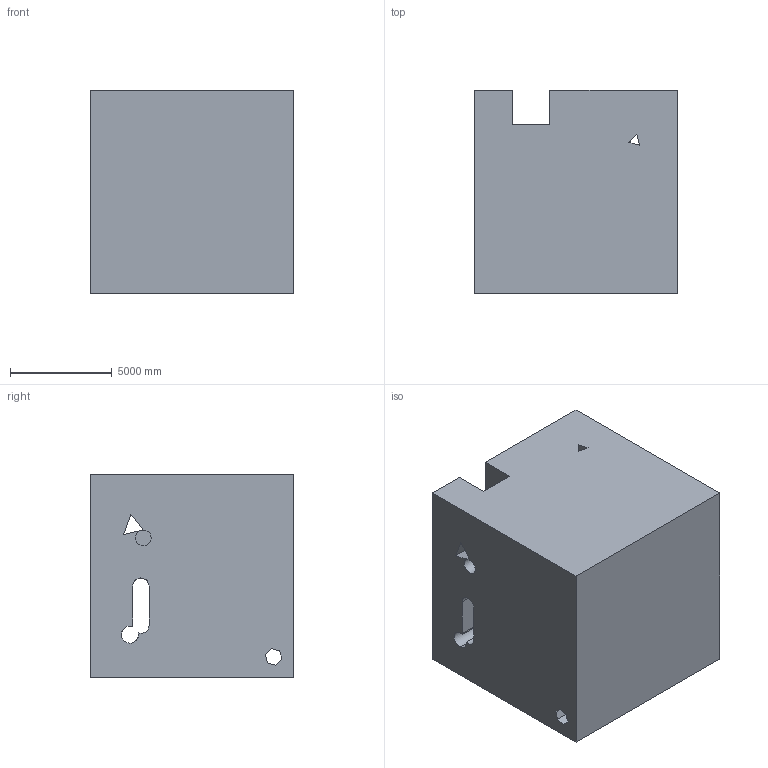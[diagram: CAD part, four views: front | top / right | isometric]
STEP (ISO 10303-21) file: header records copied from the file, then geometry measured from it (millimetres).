
FILE_DESCRIPTION (( 'STEP AP203' ), '1' );
FILE_NAME ('174.STEP', '2022-09-06T13:32:38', ( 'user' ), ( '' ), 'SwSTEP 2.0', 'SolidWorks 2021', '' );
FILE_SCHEMA (( 'CONFIG_CONTROL_DESIGN' ));
Length unit declared in the file: centimetre
Products named in the file (1): 174
Bounding box: 10000 x 10000 x 10000 mm (x, y, z)
Volume: 918933732178.2 mm3; surface area: 791078697.1 mm2
Topology: 1 solids, 1 shells, 46 faces, 152 edges, 101 vertices
Faces by surface type: plane 36, cylinder 10
Entity records: 2006 total; most frequent: CARTESIAN_POINT 603, ORIENTED_EDGE 304, DIRECTION 246, EDGE_CURVE 152, LINE 108, VECTOR 108, VERTEX_POINT 101, AXIS2_PLACEMENT_3D 69
